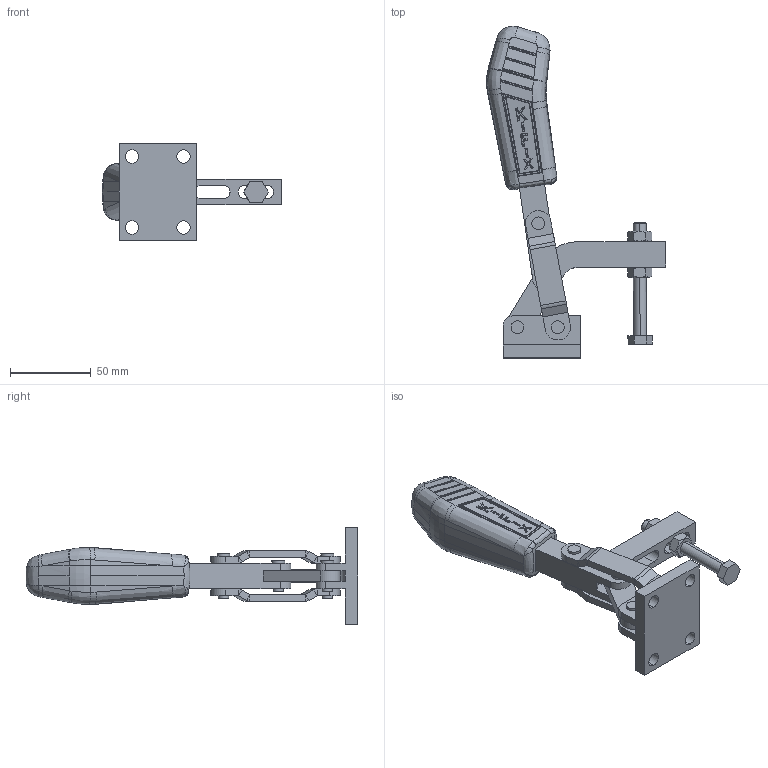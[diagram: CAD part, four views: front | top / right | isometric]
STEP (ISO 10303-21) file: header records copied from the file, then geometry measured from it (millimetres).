
FILE_DESCRIPTION (( 'STEP AP203' ), '1' );
FILE_NAME ('KF-03 JD.STEP', '2015-07-16T19:41:33', ( 'Ricardo' ), ( '' ), 'SwSTEP 2.0', 'SolidWorks 2014', '' );
FILE_SCHEMA (( 'CONFIG_CONTROL_DESIGN' ));
Length unit declared in the file: millimetre
Products named in the file (10): 07.60201; KF-03 JD; 02.30006; 06.50014; 03.30001_Montagem; 06.50015; 01.20002; 11.50002; 08.10013; 12.50003
Assembly tree (13 placements, depth 2):
  KF-03 JD
    02.30006
    03.30001_Montagem
    01.20002
    08.10013  x2
    06.50014  x2
    06.50015  x2
    11.50002  x2
    12.50003
    07.60201
Bounding box: 111.19 x 205.93 x 60 mm (x, y, z)
Volume: 171886.7 mm3; surface area: 59613.9 mm2
Topology: 13 solids, 13 shells, 753 faces, 1921 edges, 1202 vertices
Faces by surface type: bspline 271, plane 240, cylinder 155, sphere 52, cone 32, torus 3
Entity records: 28689 total; most frequent: CARTESIAN_POINT 13711, ORIENTED_EDGE 3440, DIRECTION 2042, EDGE_CURVE 1720, VERTEX_POINT 1092, B_SPLINE_CURVE_WITH_KNOTS 853, AXIS2_PLACEMENT_3D 783, EDGE_LOOP 730
